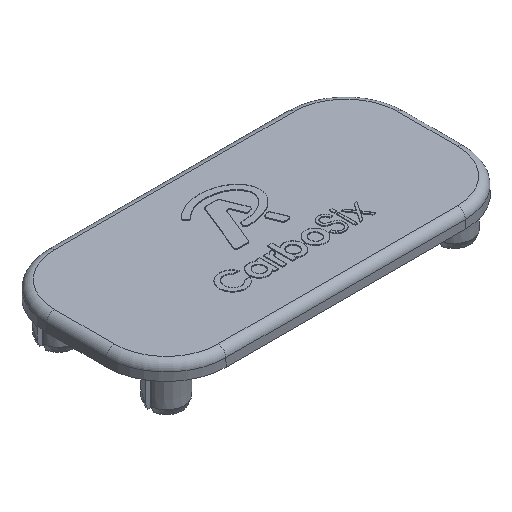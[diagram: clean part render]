
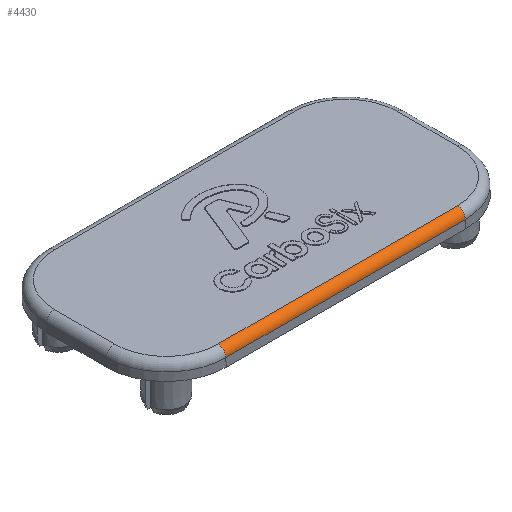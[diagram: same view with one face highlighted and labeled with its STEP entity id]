
A CAD part, isometric view. The second image highlights one B-rep face of the part: STEP entity #4430.
In plain terms, the highlighted cylindrical face has radius 2 mm (diameter 4 mm), a partial arc.
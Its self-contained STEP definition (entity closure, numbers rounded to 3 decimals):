
#98 = DIRECTION ( 'NONE',  ( 0., 0., 1. ) ) ;
#253 = ORIENTED_EDGE ( 'NONE', *, *, #2214, .T. ) ;
#429 = DIRECTION ( 'NONE',  ( 1., 0., 0. ) ) ;
#604 = ORIENTED_EDGE ( 'NONE', *, *, #1172, .F. ) ;
#672 = VERTEX_POINT ( 'NONE', #6580 ) ;
#965 = VERTEX_POINT ( 'NONE', #11523 ) ;
#1172 = EDGE_CURVE ( 'NONE', #672, #965, #11053, .T. ) ;
#1993 = CYLINDRICAL_SURFACE ( 'NONE', #11034, 2. ) ;
#2094 = ORIENTED_EDGE ( 'NONE', *, *, #6276, .F. ) ;
#2214 = EDGE_CURVE ( 'NONE', #7915, #965, #3974, .T. ) ;
#2392 = DIRECTION ( 'NONE',  ( 0., 0., -1. ) ) ;
#2661 = DIRECTION ( 'NONE',  ( -1., 0., 0. ) ) ;
#3974 = CIRCLE ( 'NONE', #11277, 2. ) ;
#4143 = CARTESIAN_POINT ( 'NONE',  ( 30., -22.464, 2.035 ) ) ;
#4287 = EDGE_CURVE ( 'NONE', #672, #7739, #5605, .T. ) ;
#4430 = ADVANCED_FACE ( 'NONE', ( #6825 ), #1993, .T. ) ;
#4977 = AXIS2_PLACEMENT_3D ( 'NONE', #11410, #429, #2392 ) ;
#5110 = DIRECTION ( 'NONE',  ( -1., 0., 0. ) ) ;
#5591 = CARTESIAN_POINT ( 'NONE',  ( -30., -22.464, 2.035 ) ) ;
#5605 = CIRCLE ( 'NONE', #4977, 2. ) ;
#5652 = EDGE_LOOP ( 'NONE', ( #6071, #2094, #253, #604 ) ) ;
#5718 = DIRECTION ( 'NONE',  ( 0., 0., -1. ) ) ;
#5781 = DIRECTION ( 'NONE',  ( 1., 0., 0. ) ) ;
#6071 = ORIENTED_EDGE ( 'NONE', *, *, #4287, .T. ) ;
#6276 = EDGE_CURVE ( 'NONE', #7915, #7739, #7763, .T. ) ;
#6580 = CARTESIAN_POINT ( 'NONE',  ( -30., -20.465, 4. ) ) ;
#6825 = FACE_OUTER_BOUND ( 'NONE', #5652, .T. ) ;
#7629 = CARTESIAN_POINT ( 'NONE',  ( -7.5, -22.464, 2.035 ) ) ;
#7739 = VERTEX_POINT ( 'NONE', #5591 ) ;
#7763 = LINE ( 'NONE', #7629, #12718 ) ;
#7915 = VERTEX_POINT ( 'NONE', #4143 ) ;
#8354 = CARTESIAN_POINT ( 'NONE',  ( 30., -20.465, 2. ) ) ;
#8960 = DIRECTION ( 'NONE',  ( 1., 0., 0. ) ) ;
#10132 = VECTOR ( 'NONE', #8960, 1000. ) ;
#11034 = AXIS2_PLACEMENT_3D ( 'NONE', #12764, #5781, #5718 ) ;
#11053 = LINE ( 'NONE', #11973, #10132 ) ;
#11277 = AXIS2_PLACEMENT_3D ( 'NONE', #8354, #5110, #98 ) ;
#11410 = CARTESIAN_POINT ( 'NONE',  ( -30., -20.465, 2. ) ) ;
#11523 = CARTESIAN_POINT ( 'NONE',  ( 30., -20.465, 4. ) ) ;
#11973 = CARTESIAN_POINT ( 'NONE',  ( 7.5, -20.465, 4. ) ) ;
#12718 = VECTOR ( 'NONE', #2661, 1000. ) ;
#12764 = CARTESIAN_POINT ( 'NONE',  ( 0., -20.465, 2. ) ) ;
